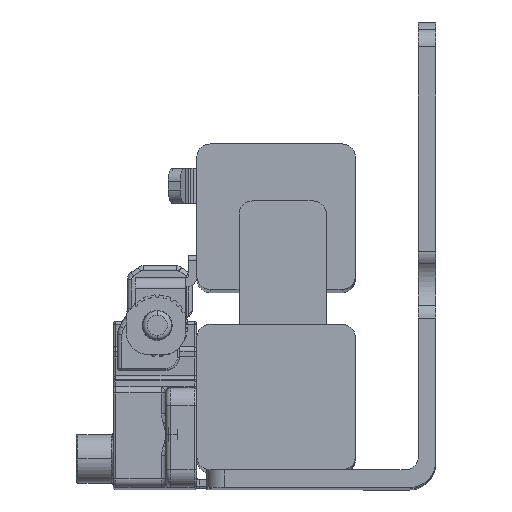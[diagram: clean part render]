
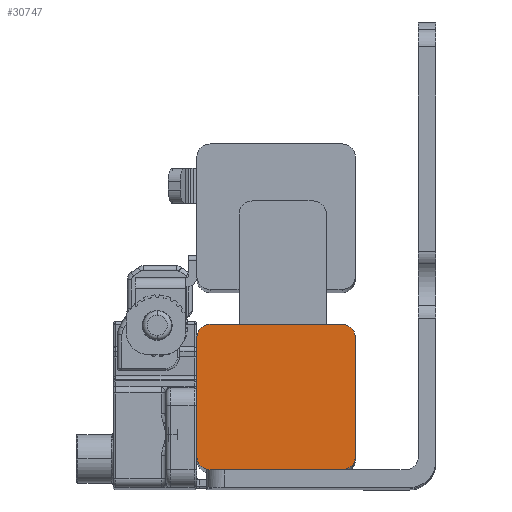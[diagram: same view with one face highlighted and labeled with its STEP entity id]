
A CAD part, top view. The second image highlights one B-rep face of the part: STEP entity #30747.
In plain terms, the highlighted planar face has unit normal (0, 0, 1).
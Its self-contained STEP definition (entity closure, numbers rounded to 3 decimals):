
#728 = LINE ( 'NONE', #42750, #42534 ) ;
#4105 = EDGE_CURVE ( 'NONE', #9814, #64791, #12600, .T. ) ;
#5147 = CARTESIAN_POINT ( 'NONE',  ( -9., -27.3, 258.899 ) ) ;
#5718 = DIRECTION ( 'NONE',  ( 0., 1., 0. ) ) ;
#6141 = ORIENTED_EDGE ( 'NONE', *, *, #35286, .F. ) ;
#6666 = ORIENTED_EDGE ( 'NONE', *, *, #35573, .F. ) ;
#7239 = DIRECTION ( 'NONE',  ( 0., 0., -1. ) ) ;
#7702 = CARTESIAN_POINT ( 'NONE',  ( 7.5, -13.8, 258.899 ) ) ;
#8851 = EDGE_CURVE ( 'NONE', #9814, #62297, #728, .T. ) ;
#8957 = CARTESIAN_POINT ( 'NONE',  ( 9., -28.8, 258.899 ) ) ;
#9050 = ORIENTED_EDGE ( 'NONE', *, *, #4105, .T. ) ;
#9122 = VERTEX_POINT ( 'NONE', #67709 ) ;
#9814 = VERTEX_POINT ( 'NONE', #13192 ) ;
#10602 = CARTESIAN_POINT ( 'NONE',  ( -9., -28.8, 258.899 ) ) ;
#10851 = AXIS2_PLACEMENT_3D ( 'NONE', #66239, #7239, #65189 ) ;
#12600 = CIRCLE ( 'NONE', #51321, 1.5 ) ;
#13122 = CARTESIAN_POINT ( 'NONE',  ( -9., -13.8, 258.899 ) ) ;
#13192 = CARTESIAN_POINT ( 'NONE',  ( 7.5, -28.8, 258.899 ) ) ;
#13456 = FACE_OUTER_BOUND ( 'NONE', #58464, .T. ) ;
#14352 = EDGE_CURVE ( 'NONE', #19743, #16510, #35918, .T. ) ;
#14524 = LINE ( 'NONE', #39844, #24705 ) ;
#15486 = ORIENTED_EDGE ( 'NONE', *, *, #35827, .T. ) ;
#16188 = CARTESIAN_POINT ( 'NONE',  ( -7.5, -27.3, 258.899 ) ) ;
#16510 = VERTEX_POINT ( 'NONE', #13122 ) ;
#16524 = DIRECTION ( 'NONE',  ( 1., 0., 0. ) ) ;
#19743 = VERTEX_POINT ( 'NONE', #5147 ) ;
#20878 = DIRECTION ( 'NONE',  ( 1., 0., 0. ) ) ;
#22592 = CIRCLE ( 'NONE', #29229, 1.5 ) ;
#24677 = ORIENTED_EDGE ( 'NONE', *, *, #38211, .T. ) ;
#24705 = VECTOR ( 'NONE', #49897, 1000. ) ;
#25257 = ORIENTED_EDGE ( 'NONE', *, *, #62430, .T. ) ;
#26902 = DIRECTION ( 'NONE',  ( 0., 0., 1. ) ) ;
#29229 = AXIS2_PLACEMENT_3D ( 'NONE', #16188, #26902, #16524 ) ;
#30747 = ADVANCED_FACE ( 'NONE', ( #13456 ), #60693, .F. ) ;
#35286 = EDGE_CURVE ( 'NONE', #9122, #48861, #14524, .T. ) ;
#35448 = AXIS2_PLACEMENT_3D ( 'NONE', #47230, #68443, #20878 ) ;
#35573 = EDGE_CURVE ( 'NONE', #51207, #64791, #62053, .T. ) ;
#35827 = EDGE_CURVE ( 'NONE', #19743, #62297, #22592, .T. ) ;
#35918 = LINE ( 'NONE', #10602, #43890 ) ;
#38211 = EDGE_CURVE ( 'NONE', #51207, #48861, #59706, .T. ) ;
#38631 = AXIS2_PLACEMENT_3D ( 'NONE', #7702, #38909, #66018 ) ;
#38909 = DIRECTION ( 'NONE',  ( 0., 0., 1. ) ) ;
#39844 = CARTESIAN_POINT ( 'NONE',  ( 9., -12.3, 258.899 ) ) ;
#40641 = CARTESIAN_POINT ( 'NONE',  ( 9., -13.8, 258.899 ) ) ;
#41865 = DIRECTION ( 'NONE',  ( 0., -1., 0. ) ) ;
#42357 = DIRECTION ( 'NONE',  ( 0., 0., 1. ) ) ;
#42534 = VECTOR ( 'NONE', #63946, 1000. ) ;
#42750 = CARTESIAN_POINT ( 'NONE',  ( -9., -28.8, 258.899 ) ) ;
#43890 = VECTOR ( 'NONE', #5718, 1000. ) ;
#45428 = CIRCLE ( 'NONE', #35448, 1.5 ) ;
#47225 = CARTESIAN_POINT ( 'NONE',  ( 7.5, -27.3, 258.899 ) ) ;
#47230 = CARTESIAN_POINT ( 'NONE',  ( -7.5, -13.8, 258.899 ) ) ;
#48861 = VERTEX_POINT ( 'NONE', #63593 ) ;
#49897 = DIRECTION ( 'NONE',  ( 1., 0., 0. ) ) ;
#51207 = VERTEX_POINT ( 'NONE', #40641 ) ;
#51321 = AXIS2_PLACEMENT_3D ( 'NONE', #47225, #42357, #57322 ) ;
#51558 = ORIENTED_EDGE ( 'NONE', *, *, #8851, .F. ) ;
#55683 = CARTESIAN_POINT ( 'NONE',  ( 9., -27.3, 258.899 ) ) ;
#57322 = DIRECTION ( 'NONE',  ( 1., 0., 0. ) ) ;
#58464 = EDGE_LOOP ( 'NONE', ( #25257, #58698, #15486, #51558, #9050, #6666, #24677, #6141 ) ) ;
#58698 = ORIENTED_EDGE ( 'NONE', *, *, #14352, .F. ) ;
#59706 = CIRCLE ( 'NONE', #38631, 1.5 ) ;
#60693 = PLANE ( 'NONE',  #10851 ) ;
#62053 = LINE ( 'NONE', #8957, #66962 ) ;
#62297 = VERTEX_POINT ( 'NONE', #66420 ) ;
#62430 = EDGE_CURVE ( 'NONE', #9122, #16510, #45428, .T. ) ;
#63593 = CARTESIAN_POINT ( 'NONE',  ( 7.5, -12.3, 258.899 ) ) ;
#63946 = DIRECTION ( 'NONE',  ( -1., 0., 0. ) ) ;
#64791 = VERTEX_POINT ( 'NONE', #55683 ) ;
#65189 = DIRECTION ( 'NONE',  ( 1., 0., 0. ) ) ;
#66018 = DIRECTION ( 'NONE',  ( 1., 0., 0. ) ) ;
#66239 = CARTESIAN_POINT ( 'NONE',  ( -7.51, -27.31, 258.899 ) ) ;
#66420 = CARTESIAN_POINT ( 'NONE',  ( -7.5, -28.8, 258.899 ) ) ;
#66962 = VECTOR ( 'NONE', #41865, 1000. ) ;
#67709 = CARTESIAN_POINT ( 'NONE',  ( -7.5, -12.3, 258.899 ) ) ;
#68443 = DIRECTION ( 'NONE',  ( 0., 0., 1. ) ) ;
